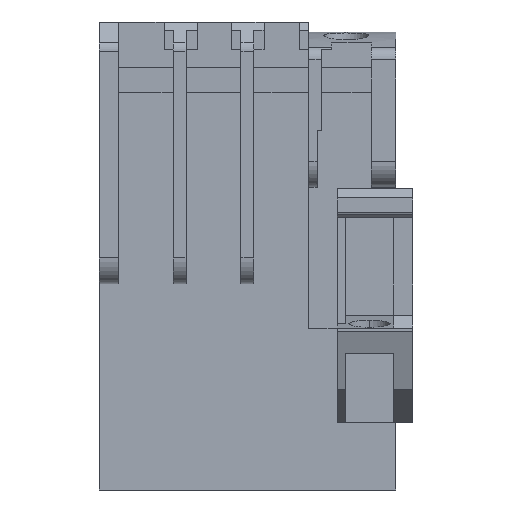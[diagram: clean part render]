
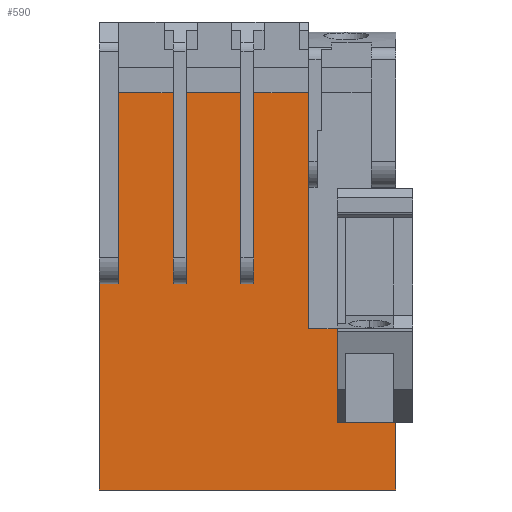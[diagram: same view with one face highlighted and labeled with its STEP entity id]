
A CAD part, front view. The second image highlights one B-rep face of the part: STEP entity #590.
In plain terms, the highlighted planar face has unit normal (0, -1, 0).
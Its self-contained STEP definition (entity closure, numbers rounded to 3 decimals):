
#4 = EDGE_LOOP ( 'NONE', ( #535, #4276, #2571, #1967, #66, #1822, #4457, #2015, #2217, #4955, #648, #1771, #1648, #1920, #3881, #1575, #4294, #3260, #19 ) ) ;
#19 = ORIENTED_EDGE ( 'NONE', *, *, #2721, .T. ) ;
#66 = ORIENTED_EDGE ( 'NONE', *, *, #3303, .T. ) ;
#128 = CARTESIAN_POINT ( 'NONE',  ( -0.476, -29.454, 23.767 ) ) ;
#139 = CARTESIAN_POINT ( 'NONE',  ( 2.474, -29.454, -37.833 ) ) ;
#168 = CARTESIAN_POINT ( 'NONE',  ( 36.424, -29.454, -37.833 ) ) ;
#173 = LINE ( 'NONE', #3362, #2234 ) ;
#175 = LINE ( 'NONE', #4144, #3105 ) ;
#260 = DIRECTION ( 'NONE',  ( -1., 0., 0. ) ) ;
#297 = VERTEX_POINT ( 'NONE', #381 ) ;
#310 = CARTESIAN_POINT ( 'NONE',  ( 31.974, -29.454, -37.833 ) ) ;
#311 = CARTESIAN_POINT ( 'NONE',  ( -0.476, -29.454, -12.833 ) ) ;
#344 = CARTESIAN_POINT ( 'NONE',  ( -0.476, -29.454, -37.833 ) ) ;
#381 = CARTESIAN_POINT ( 'NONE',  ( 31.974, -29.454, -12.833 ) ) ;
#535 = ORIENTED_EDGE ( 'NONE', *, *, #3995, .F. ) ;
#559 = DIRECTION ( 'NONE',  ( 0., 0., 1. ) ) ;
#582 = DIRECTION ( 'NONE',  ( -1., 0., 0. ) ) ;
#590 = ADVANCED_FACE ( 'NONE', ( #3944 ), #3541, .T. ) ;
#648 = ORIENTED_EDGE ( 'NONE', *, *, #2514, .T. ) ;
#673 = VECTOR ( 'NONE', #2700, 1000. ) ;
#738 = CARTESIAN_POINT ( 'NONE',  ( 31.974, -29.454, 23.767 ) ) ;
#774 = CARTESIAN_POINT ( 'NONE',  ( 36.424, -29.454, -27.433 ) ) ;
#788 = VECTOR ( 'NONE', #1861, 1000. ) ;
#812 = LINE ( 'NONE', #1893, #5216 ) ;
#818 = CARTESIAN_POINT ( 'NONE',  ( 31.974, -29.454, -37.833 ) ) ;
#826 = LINE ( 'NONE', #311, #4123 ) ;
#906 = CARTESIAN_POINT ( 'NONE',  ( 10.974, -29.454, -5.833 ) ) ;
#937 = LINE ( 'NONE', #128, #3337 ) ;
#947 = EDGE_CURVE ( 'NONE', #3181, #1599, #173, .T. ) ;
#1146 = CARTESIAN_POINT ( 'NONE',  ( 45.524, -29.454, -37.833 ) ) ;
#1153 = VECTOR ( 'NONE', #1827, 1000. ) ;
#1243 = DIRECTION ( 'NONE',  ( 0., 0., 1. ) ) ;
#1250 = VERTEX_POINT ( 'NONE', #344 ) ;
#1320 = VERTEX_POINT ( 'NONE', #2953 ) ;
#1375 = VERTEX_POINT ( 'NONE', #4647 ) ;
#1422 = CARTESIAN_POINT ( 'NONE',  ( 12.974, -29.454, -5.833 ) ) ;
#1490 = CARTESIAN_POINT ( 'NONE',  ( 23.474, -29.454, -5.833 ) ) ;
#1527 = VERTEX_POINT ( 'NONE', #4531 ) ;
#1575 = ORIENTED_EDGE ( 'NONE', *, *, #3774, .T. ) ;
#1579 = VECTOR ( 'NONE', #3482, 1000. ) ;
#1599 = VERTEX_POINT ( 'NONE', #2387 ) ;
#1648 = ORIENTED_EDGE ( 'NONE', *, *, #2751, .T. ) ;
#1756 = VECTOR ( 'NONE', #4645, 1000. ) ;
#1767 = VERTEX_POINT ( 'NONE', #5071 ) ;
#1771 = ORIENTED_EDGE ( 'NONE', *, *, #947, .T. ) ;
#1806 = VECTOR ( 'NONE', #3258, 1000. ) ;
#1822 = ORIENTED_EDGE ( 'NONE', *, *, #1952, .T. ) ;
#1827 = DIRECTION ( 'NONE',  ( -1., 0., 0. ) ) ;
#1861 = DIRECTION ( 'NONE',  ( -1., 0., 0. ) ) ;
#1871 = VERTEX_POINT ( 'NONE', #1490 ) ;
#1893 = CARTESIAN_POINT ( 'NONE',  ( -0.476, -29.454, -5.833 ) ) ;
#1920 = ORIENTED_EDGE ( 'NONE', *, *, #2670, .T. ) ;
#1952 = EDGE_CURVE ( 'NONE', #297, #3938, #4298, .T. ) ;
#1955 = EDGE_CURVE ( 'NONE', #2938, #1375, #3120, .T. ) ;
#1967 = ORIENTED_EDGE ( 'NONE', *, *, #2977, .T. ) ;
#1984 = VERTEX_POINT ( 'NONE', #4350 ) ;
#1997 = EDGE_CURVE ( 'NONE', #5274, #1984, #3742, .T. ) ;
#2015 = ORIENTED_EDGE ( 'NONE', *, *, #4027, .T. ) ;
#2050 = DIRECTION ( 'NONE',  ( -1., 0., 0. ) ) ;
#2097 = EDGE_CURVE ( 'NONE', #2828, #3340, #5208, .T. ) ;
#2109 = CARTESIAN_POINT ( 'NONE',  ( 10.974, -29.454, -37.833 ) ) ;
#2185 = DIRECTION ( 'NONE',  ( 0., 0., -1. ) ) ;
#2217 = ORIENTED_EDGE ( 'NONE', *, *, #4119, .T. ) ;
#2234 = VECTOR ( 'NONE', #3383, 1000. ) ;
#2265 = CARTESIAN_POINT ( 'NONE',  ( 45.524, -29.454, -1.017 ) ) ;
#2354 = DIRECTION ( 'NONE',  ( 0., 0., -1. ) ) ;
#2387 = CARTESIAN_POINT ( 'NONE',  ( 12.974, -29.454, 23.767 ) ) ;
#2432 = LINE ( 'NONE', #3990, #1153 ) ;
#2450 = EDGE_CURVE ( 'NONE', #2828, #3629, #2432, .T. ) ;
#2499 = CARTESIAN_POINT ( 'NONE',  ( 23.474, -29.454, 23.767 ) ) ;
#2514 = EDGE_CURVE ( 'NONE', #1320, #3181, #2905, .T. ) ;
#2571 = ORIENTED_EDGE ( 'NONE', *, *, #2450, .T. ) ;
#2597 = VECTOR ( 'NONE', #3749, 1000. ) ;
#2599 = CARTESIAN_POINT ( 'NONE',  ( 23.474, -29.454, -37.833 ) ) ;
#2670 = EDGE_CURVE ( 'NONE', #5018, #2938, #4346, .T. ) ;
#2700 = DIRECTION ( 'NONE',  ( 0., 0., -1. ) ) ;
#2717 = CARTESIAN_POINT ( 'NONE',  ( -0.476, -29.454, -5.833 ) ) ;
#2721 = EDGE_CURVE ( 'NONE', #1527, #1250, #4666, .T. ) ;
#2734 = LINE ( 'NONE', #5022, #2597 ) ;
#2751 = EDGE_CURVE ( 'NONE', #1599, #5018, #175, .T. ) ;
#2782 = VERTEX_POINT ( 'NONE', #738 ) ;
#2815 = CARTESIAN_POINT ( 'NONE',  ( 2.474, -29.454, 23.767 ) ) ;
#2818 = CARTESIAN_POINT ( 'NONE',  ( 31.974, -29.454, 9.459 ) ) ;
#2828 = VERTEX_POINT ( 'NONE', #4240 ) ;
#2841 = CARTESIAN_POINT ( 'NONE',  ( -0.476, -29.454, -5.833 ) ) ;
#2905 = LINE ( 'NONE', #3350, #1756 ) ;
#2938 = VERTEX_POINT ( 'NONE', #906 ) ;
#2953 = CARTESIAN_POINT ( 'NONE',  ( 21.474, -29.454, -5.833 ) ) ;
#2977 = EDGE_CURVE ( 'NONE', #3629, #1767, #3375, .T. ) ;
#2998 = VECTOR ( 'NONE', #1243, 1000. ) ;
#3105 = VECTOR ( 'NONE', #4984, 1000. ) ;
#3120 = LINE ( 'NONE', #2109, #2998 ) ;
#3181 = VERTEX_POINT ( 'NONE', #4152 ) ;
#3258 = DIRECTION ( 'NONE',  ( -1., 0., 0. ) ) ;
#3260 = ORIENTED_EDGE ( 'NONE', *, *, #3307, .T. ) ;
#3303 = EDGE_CURVE ( 'NONE', #1767, #297, #826, .T. ) ;
#3307 = EDGE_CURVE ( 'NONE', #1984, #1527, #5228, .T. ) ;
#3329 = VECTOR ( 'NONE', #2050, 1000. ) ;
#3337 = VECTOR ( 'NONE', #582, 1000. ) ;
#3340 = VERTEX_POINT ( 'NONE', #1146 ) ;
#3342 = CARTESIAN_POINT ( 'NONE',  ( -0.476, -29.454, 23.767 ) ) ;
#3350 = CARTESIAN_POINT ( 'NONE',  ( 21.474, -29.454, -37.833 ) ) ;
#3362 = CARTESIAN_POINT ( 'NONE',  ( -0.476, -29.454, 23.767 ) ) ;
#3375 = LINE ( 'NONE', #168, #3769 ) ;
#3383 = DIRECTION ( 'NONE',  ( -1., 0., 0. ) ) ;
#3482 = DIRECTION ( 'NONE',  ( 0., 0., -1. ) ) ;
#3486 = DIRECTION ( 'NONE',  ( 0., 0., -1. ) ) ;
#3497 = DIRECTION ( 'NONE',  ( 0., -1., 0. ) ) ;
#3513 = VECTOR ( 'NONE', #2354, 1000. ) ;
#3541 = PLANE ( 'NONE',  #4503 ) ;
#3629 = VERTEX_POINT ( 'NONE', #774 ) ;
#3657 = EDGE_CURVE ( 'NONE', #3938, #2782, #5272, .T. ) ;
#3674 = VECTOR ( 'NONE', #2185, 1000. ) ;
#3742 = LINE ( 'NONE', #139, #1579 ) ;
#3749 = DIRECTION ( 'NONE',  ( -1., 0., 0. ) ) ;
#3769 = VECTOR ( 'NONE', #559, 1000. ) ;
#3774 = EDGE_CURVE ( 'NONE', #1375, #5274, #937, .T. ) ;
#3851 = EDGE_CURVE ( 'NONE', #1871, #1320, #812, .T. ) ;
#3881 = ORIENTED_EDGE ( 'NONE', *, *, #1955, .T. ) ;
#3938 = VERTEX_POINT ( 'NONE', #2818 ) ;
#3944 = FACE_OUTER_BOUND ( 'NONE', #4, .T. ) ;
#3982 = CARTESIAN_POINT ( 'NONE',  ( -0.476, -29.454, -37.833 ) ) ;
#3990 = CARTESIAN_POINT ( 'NONE',  ( -0.476, -29.454, -27.433 ) ) ;
#3995 = EDGE_CURVE ( 'NONE', #3340, #1250, #2734, .T. ) ;
#4027 = EDGE_CURVE ( 'NONE', #2782, #4502, #4608, .T. ) ;
#4119 = EDGE_CURVE ( 'NONE', #4502, #1871, #4949, .T. ) ;
#4123 = VECTOR ( 'NONE', #4959, 1000. ) ;
#4144 = CARTESIAN_POINT ( 'NONE',  ( 12.974, -29.454, -37.833 ) ) ;
#4152 = CARTESIAN_POINT ( 'NONE',  ( 21.474, -29.454, 23.767 ) ) ;
#4240 = CARTESIAN_POINT ( 'NONE',  ( 45.524, -29.454, -27.433 ) ) ;
#4253 = DIRECTION ( 'NONE',  ( 0., 0., 1. ) ) ;
#4276 = ORIENTED_EDGE ( 'NONE', *, *, #2097, .F. ) ;
#4294 = ORIENTED_EDGE ( 'NONE', *, *, #1997, .T. ) ;
#4298 = LINE ( 'NONE', #310, #5266 ) ;
#4305 = VECTOR ( 'NONE', #4253, 1000. ) ;
#4346 = LINE ( 'NONE', #2717, #788 ) ;
#4350 = CARTESIAN_POINT ( 'NONE',  ( 2.474, -29.454, -5.833 ) ) ;
#4457 = ORIENTED_EDGE ( 'NONE', *, *, #3657, .T. ) ;
#4502 = VERTEX_POINT ( 'NONE', #2499 ) ;
#4503 = AXIS2_PLACEMENT_3D ( 'NONE', #3982, #3497, #3486 ) ;
#4531 = CARTESIAN_POINT ( 'NONE',  ( -0.476, -29.454, -5.833 ) ) ;
#4608 = LINE ( 'NONE', #3342, #3329 ) ;
#4645 = DIRECTION ( 'NONE',  ( 0., 0., 1. ) ) ;
#4647 = CARTESIAN_POINT ( 'NONE',  ( 10.974, -29.454, 23.767 ) ) ;
#4666 = LINE ( 'NONE', #5347, #3513 ) ;
#4688 = DIRECTION ( 'NONE',  ( 0., 0., 1. ) ) ;
#4949 = LINE ( 'NONE', #2599, #3674 ) ;
#4955 = ORIENTED_EDGE ( 'NONE', *, *, #3851, .T. ) ;
#4959 = DIRECTION ( 'NONE',  ( -1., 0., 0. ) ) ;
#4984 = DIRECTION ( 'NONE',  ( 0., 0., -1. ) ) ;
#5018 = VERTEX_POINT ( 'NONE', #1422 ) ;
#5022 = CARTESIAN_POINT ( 'NONE',  ( -0.476, -29.454, -37.833 ) ) ;
#5071 = CARTESIAN_POINT ( 'NONE',  ( 36.424, -29.454, -12.833 ) ) ;
#5208 = LINE ( 'NONE', #2265, #673 ) ;
#5216 = VECTOR ( 'NONE', #260, 1000. ) ;
#5228 = LINE ( 'NONE', #2841, #1806 ) ;
#5266 = VECTOR ( 'NONE', #4688, 1000. ) ;
#5272 = LINE ( 'NONE', #818, #4305 ) ;
#5274 = VERTEX_POINT ( 'NONE', #2815 ) ;
#5347 = CARTESIAN_POINT ( 'NONE',  ( -0.476, -29.454, -1.248 ) ) ;
